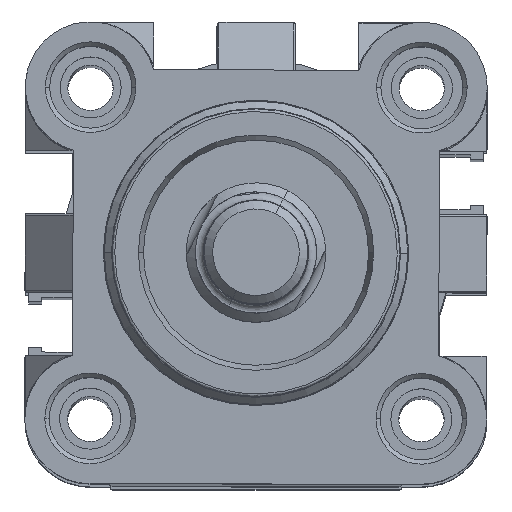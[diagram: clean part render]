
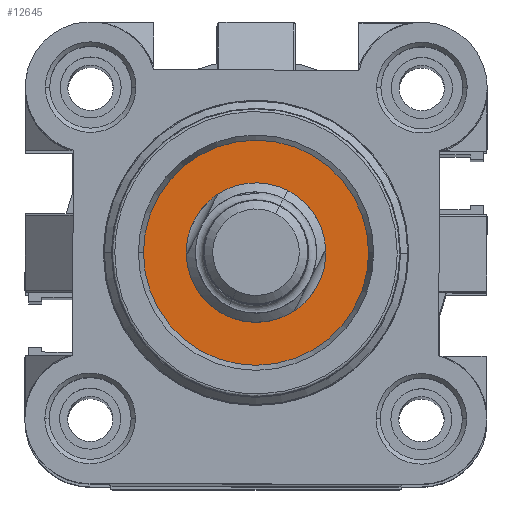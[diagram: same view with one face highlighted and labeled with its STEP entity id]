
A CAD part, top view. The second image highlights one B-rep face of the part: STEP entity #12645.
In plain terms, the highlighted planar face has unit normal (0, 0, 1) as drawn and (0, 0, -1) by its records, which use the part's own axes.
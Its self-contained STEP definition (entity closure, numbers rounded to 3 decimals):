
#528 = EDGE_LOOP ( 'NONE', ( #5312, #9082 ) ) ;
#803 = FACE_BOUND ( 'NONE', #528, .T. ) ;
#1198 = DIRECTION ( 'NONE',  ( 0., 0., -1. ) ) ;
#2756 = AXIS2_PLACEMENT_3D ( 'NONE', #13019, #13016, #13001 ) ;
#3006 = AXIS2_PLACEMENT_3D ( 'NONE', #13820, #13815, #13801 ) ;
#3303 = VERTEX_POINT ( 'NONE', #11961 ) ;
#3951 = AXIS2_PLACEMENT_3D ( 'NONE', #5555, #14526, #6804 ) ;
#4218 = CARTESIAN_POINT ( 'NONE',  ( 8.082, 21., -18.5 ) ) ;
#4902 = CARTESIAN_POINT ( 'NONE',  ( 33.918, 21., -18.5 ) ) ;
#5021 = AXIS2_PLACEMENT_3D ( 'NONE', #15272, #1198, #10115 ) ;
#5084 = AXIS2_PLACEMENT_3D ( 'NONE', #6131, #15148, #7403 ) ;
#5123 = CIRCLE ( 'NONE', #3951, 8. ) ;
#5190 = EDGE_CURVE ( 'NONE', #6160, #3303, #11785, .T. ) ;
#5312 = ORIENTED_EDGE ( 'NONE', *, *, #13467, .F. ) ;
#5409 = EDGE_CURVE ( 'NONE', #13909, #7398, #13587, .T. ) ;
#5555 = CARTESIAN_POINT ( 'NONE',  ( 21., 21., -18.5 ) ) ;
#6131 = CARTESIAN_POINT ( 'NONE',  ( 21., 21., -18.5 ) ) ;
#6160 = VERTEX_POINT ( 'NONE', #10631 ) ;
#6483 = ORIENTED_EDGE ( 'NONE', *, *, #5409, .T. ) ;
#6804 = DIRECTION ( 'NONE',  ( 0., 1., 0. ) ) ;
#7398 = VERTEX_POINT ( 'NONE', #4218 ) ;
#7403 = DIRECTION ( 'NONE',  ( -1., 0., 0. ) ) ;
#7942 = FACE_OUTER_BOUND ( 'NONE', #13254, .T. ) ;
#9082 = ORIENTED_EDGE ( 'NONE', *, *, #5190, .F. ) ;
#9504 = ORIENTED_EDGE ( 'NONE', *, *, #12604, .T. ) ;
#10115 = DIRECTION ( 'NONE',  ( -1., 0., 0. ) ) ;
#10631 = CARTESIAN_POINT ( 'NONE',  ( 21., 13., -18.5 ) ) ;
#11785 = CIRCLE ( 'NONE', #3006, 8. ) ;
#11961 = CARTESIAN_POINT ( 'NONE',  ( 21., 29., -18.5 ) ) ;
#12604 = EDGE_CURVE ( 'NONE', #7398, #13909, #14814, .T. ) ;
#12645 = ADVANCED_FACE ( 'NONE', ( #803, #7942 ), #13954, .T. ) ;
#13001 = DIRECTION ( 'NONE',  ( -1., 0., 0. ) ) ;
#13016 = DIRECTION ( 'NONE',  ( 0., 0., -1. ) ) ;
#13019 = CARTESIAN_POINT ( 'NONE',  ( 21., 21., -18.5 ) ) ;
#13254 = EDGE_LOOP ( 'NONE', ( #9504, #6483 ) ) ;
#13467 = EDGE_CURVE ( 'NONE', #3303, #6160, #5123, .T. ) ;
#13587 = CIRCLE ( 'NONE', #2756, 12.918 ) ;
#13801 = DIRECTION ( 'NONE',  ( 0., 1., 0. ) ) ;
#13815 = DIRECTION ( 'NONE',  ( 0., 0., -1. ) ) ;
#13820 = CARTESIAN_POINT ( 'NONE',  ( 21., 21., -18.5 ) ) ;
#13909 = VERTEX_POINT ( 'NONE', #4902 ) ;
#13954 = PLANE ( 'NONE',  #5021 ) ;
#14526 = DIRECTION ( 'NONE',  ( 0., 0., -1. ) ) ;
#14814 = CIRCLE ( 'NONE', #5084, 12.918 ) ;
#15148 = DIRECTION ( 'NONE',  ( 0., 0., -1. ) ) ;
#15272 = CARTESIAN_POINT ( 'NONE',  ( 34.073, 7.927, -18.5 ) ) ;
